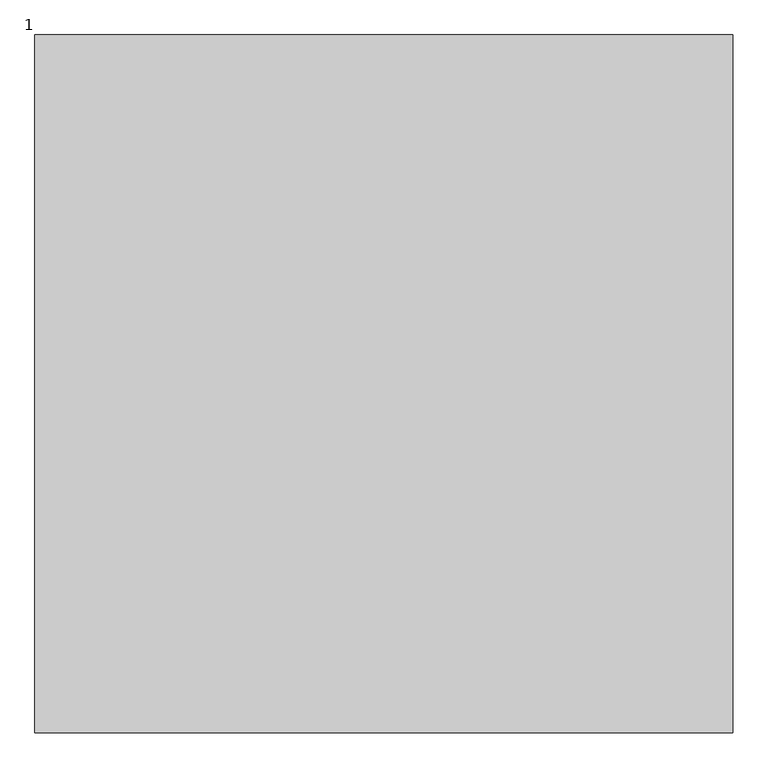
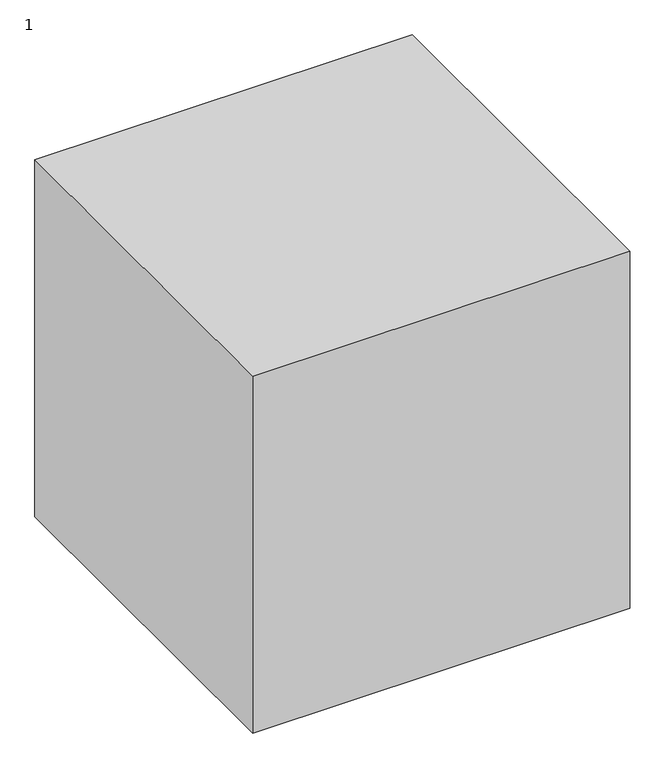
"""IFC4 building model written with IfcOpenShell, lengths in millimetres: proxy geometry, 1222112111 : 1."""

from ifc_helpers import new_model, si_unit, origin, origin_with_axes, place, context, project, spatial, polyline, outline, extrude, source, transform, mapped, element, save


def proxy_1_089240f8(model_context):
    return source(origin(), model_context, "Body", "SweptSolid", [
        extrude(outline(polyline([(-2307.9756708, -4664.7705528), (-2307.9756708, -5664.7705528), (-3307.9756708, -5664.7705528), (-3307.9756708, -4664.7705528), (-2307.9756708, -4664.7705528)])), origin_with_axes(), (0.0, 0.0, 1.0), 1000.0),
    ])


if __name__ == "__main__":
    model = new_model("IFC4")
    model_context = context("Model", 3, world=origin())
    ifc_project = project(units=[si_unit("LENGTHUNIT", "METRE", prefix="MILLI")], contexts=[model_context])
    site = spatial("IfcSite", under=ifc_project)
    building = spatial("IfcBuilding", under=site)
    placement = place(None, origin())
    proxy_1_shape = proxy_1_089240f8(model_context)
    element("IfcBuildingElementProxy", 1, Name="1222112111 : 1", ObjectType="1222112111 : 1", at=placement, inside=building, context=model_context, shape_type="MappedRepresentation", body=[
        mapped(proxy_1_shape, transform((0.0, 0.0, 0.0), x_axis=(1.0, 0.0, 0.0), y_axis=(0.0, 1.0, 0.0), z_axis=(0.0, 0.0, 1.0))),
    ])
    save(model, "model.ifc")
